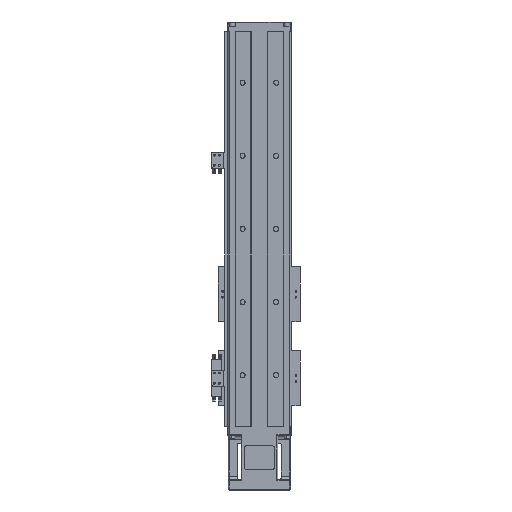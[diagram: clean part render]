
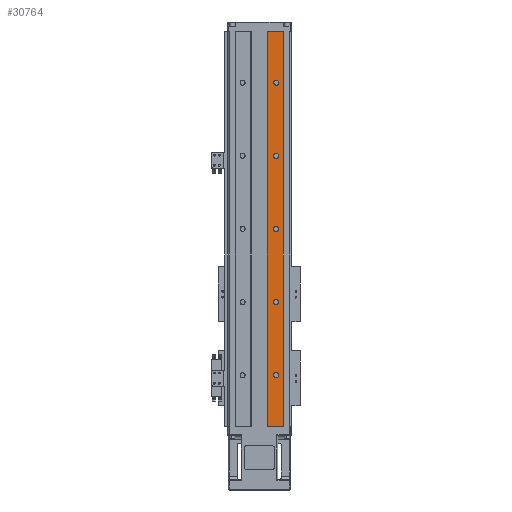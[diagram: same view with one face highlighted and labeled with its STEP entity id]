
A CAD part, front view. The second image highlights one B-rep face of the part: STEP entity #30764.
In plain terms, the highlighted planar face has unit normal (0, -1, 0).
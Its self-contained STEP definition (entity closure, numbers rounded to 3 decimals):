
#294 = DIRECTION ( 'NONE',  ( 0., -1., 0. ) ) ;
#431 = FACE_BOUND ( 'NONE', #3043, .T. ) ;
#534 = ORIENTED_EDGE ( 'NONE', *, *, #13612, .T. ) ;
#2410 = ORIENTED_EDGE ( 'NONE', *, *, #54912, .T. ) ;
#2803 = CARTESIAN_POINT ( 'NONE',  ( 23., 0., 173.5 ) ) ;
#3043 = EDGE_LOOP ( 'NONE', ( #17913, #55303 ) ) ;
#3138 = FACE_BOUND ( 'NONE', #34122, .T. ) ;
#3266 = VERTEX_POINT ( 'NONE', #22883 ) ;
#4598 = CIRCLE ( 'NONE', #35231, 3.5 ) ;
#6415 = EDGE_LOOP ( 'NONE', ( #534, #2410 ) ) ;
#6606 = ORIENTED_EDGE ( 'NONE', *, *, #12861, .F. ) ;
#7250 = CARTESIAN_POINT ( 'NONE',  ( 23., 0., 366.5 ) ) ;
#7892 = ORIENTED_EDGE ( 'NONE', *, *, #41588, .T. ) ;
#8118 = CIRCLE ( 'NONE', #37068, 3.5 ) ;
#8276 = CARTESIAN_POINT ( 'NONE',  ( 32.5, 0., 0. ) ) ;
#9009 = CARTESIAN_POINT ( 'NONE',  ( 43., 0., 540. ) ) ;
#9191 = PLANE ( 'NONE',  #29648 ) ;
#10011 = CARTESIAN_POINT ( 'NONE',  ( 32.5, 0., 540. ) ) ;
#10051 = CARTESIAN_POINT ( 'NONE',  ( 11.5, 0., 540. ) ) ;
#10909 = CARTESIAN_POINT ( 'NONE',  ( 23., 0., 270. ) ) ;
#11283 = DIRECTION ( 'NONE',  ( 0., 0., -1. ) ) ;
#11664 = CARTESIAN_POINT ( 'NONE',  ( 23., 0., 66.5 ) ) ;
#11685 = DIRECTION ( 'NONE',  ( 0., 0., -1. ) ) ;
#12057 = EDGE_CURVE ( 'NONE', #22628, #24950, #47315, .T. ) ;
#12530 = DIRECTION ( 'NONE',  ( 0., 0., -1. ) ) ;
#12861 = EDGE_CURVE ( 'NONE', #25872, #22253, #47925, .T. ) ;
#12998 = CARTESIAN_POINT ( 'NONE',  ( 23., 0., 473.5 ) ) ;
#13421 = DIRECTION ( 'NONE',  ( -1., 0., 0. ) ) ;
#13612 = EDGE_CURVE ( 'NONE', #31402, #13750, #21249, .T. ) ;
#13750 = VERTEX_POINT ( 'NONE', #50052 ) ;
#13972 = FACE_BOUND ( 'NONE', #18313, .T. ) ;
#14283 = LINE ( 'NONE', #26312, #22414 ) ;
#16421 = EDGE_CURVE ( 'NONE', #20586, #19460, #22939, .T. ) ;
#16489 = ORIENTED_EDGE ( 'NONE', *, *, #12057, .T. ) ;
#16514 = CARTESIAN_POINT ( 'NONE',  ( 23., 0., 470. ) ) ;
#16905 = CIRCLE ( 'NONE', #35743, 3.5 ) ;
#17081 = AXIS2_PLACEMENT_3D ( 'NONE', #10909, #33282, #11283 ) ;
#17296 = EDGE_LOOP ( 'NONE', ( #53207, #6606, #47027, #27843 ) ) ;
#17316 = VERTEX_POINT ( 'NONE', #28539 ) ;
#17913 = ORIENTED_EDGE ( 'NONE', *, *, #27282, .T. ) ;
#18122 = VERTEX_POINT ( 'NONE', #2803 ) ;
#18313 = EDGE_LOOP ( 'NONE', ( #7892, #19992 ) ) ;
#19262 = DIRECTION ( 'NONE',  ( 0., 0., -1. ) ) ;
#19460 = VERTEX_POINT ( 'NONE', #10051 ) ;
#19577 = CARTESIAN_POINT ( 'NONE',  ( 23., 0., 73.5 ) ) ;
#19992 = ORIENTED_EDGE ( 'NONE', *, *, #46967, .T. ) ;
#20586 = VERTEX_POINT ( 'NONE', #38820 ) ;
#21249 = CIRCLE ( 'NONE', #23680, 3.5 ) ;
#22253 = VERTEX_POINT ( 'NONE', #8276 ) ;
#22374 = ORIENTED_EDGE ( 'NONE', *, *, #51459, .T. ) ;
#22414 = VECTOR ( 'NONE', #13421, 1000. ) ;
#22628 = VERTEX_POINT ( 'NONE', #11664 ) ;
#22680 = DIRECTION ( 'NONE',  ( 0., 0., -1. ) ) ;
#22883 = CARTESIAN_POINT ( 'NONE',  ( 23., 0., 166.5 ) ) ;
#22939 = LINE ( 'NONE', #26952, #28383 ) ;
#23533 = DIRECTION ( 'NONE',  ( 0., 1., 0. ) ) ;
#23680 = AXIS2_PLACEMENT_3D ( 'NONE', #31401, #48754, #22680 ) ;
#23800 = EDGE_CURVE ( 'NONE', #17316, #50439, #16905, .T. ) ;
#24950 = VERTEX_POINT ( 'NONE', #19577 ) ;
#25771 = DIRECTION ( 'NONE',  ( 0., 1., 0. ) ) ;
#25797 = DIRECTION ( 'NONE',  ( 0., 1., 0. ) ) ;
#25872 = VERTEX_POINT ( 'NONE', #10011 ) ;
#26024 = ORIENTED_EDGE ( 'NONE', *, *, #28983, .T. ) ;
#26312 = CARTESIAN_POINT ( 'NONE',  ( 43., 0., 540. ) ) ;
#26638 = EDGE_CURVE ( 'NONE', #22253, #20586, #40982, .T. ) ;
#26952 = CARTESIAN_POINT ( 'NONE',  ( 11.5, 0., 540. ) ) ;
#27282 = EDGE_CURVE ( 'NONE', #38872, #29298, #36791, .T. ) ;
#27843 = ORIENTED_EDGE ( 'NONE', *, *, #16421, .F. ) ;
#28383 = VECTOR ( 'NONE', #39477, 1000. ) ;
#28539 = CARTESIAN_POINT ( 'NONE',  ( 23., 0., 373.5 ) ) ;
#28983 = EDGE_CURVE ( 'NONE', #50439, #17316, #4598, .T. ) ;
#29298 = VERTEX_POINT ( 'NONE', #12998 ) ;
#29648 = AXIS2_PLACEMENT_3D ( 'NONE', #9009, #294, #44344 ) ;
#29707 = AXIS2_PLACEMENT_3D ( 'NONE', #55940, #43213, #43779 ) ;
#29713 = CARTESIAN_POINT ( 'NONE',  ( 23., 0., 370. ) ) ;
#30083 = DIRECTION ( 'NONE',  ( 0., 1., 0. ) ) ;
#30087 = CARTESIAN_POINT ( 'NONE',  ( 23., 0., 466.5 ) ) ;
#30764 = ADVANCED_FACE ( 'NONE', ( #54073, #431, #48639, #42524, #13972, #3138 ), #9191, .T. ) ;
#31401 = CARTESIAN_POINT ( 'NONE',  ( 23., 0., 270. ) ) ;
#31402 = VERTEX_POINT ( 'NONE', #44159 ) ;
#32689 = AXIS2_PLACEMENT_3D ( 'NONE', #32823, #23533, #50341 ) ;
#32823 = CARTESIAN_POINT ( 'NONE',  ( 23., 0., 170. ) ) ;
#33282 = DIRECTION ( 'NONE',  ( 0., 1., 0. ) ) ;
#34106 = CIRCLE ( 'NONE', #34310, 3.5 ) ;
#34122 = EDGE_LOOP ( 'NONE', ( #16489, #22374 ) ) ;
#34310 = AXIS2_PLACEMENT_3D ( 'NONE', #55202, #54825, #50458 ) ;
#34492 = CARTESIAN_POINT ( 'NONE',  ( 23., 0., 470. ) ) ;
#35231 = AXIS2_PLACEMENT_3D ( 'NONE', #41486, #54796, #19262 ) ;
#35237 = EDGE_CURVE ( 'NONE', #25872, #19460, #14283, .T. ) ;
#35743 = AXIS2_PLACEMENT_3D ( 'NONE', #29713, #30083, #56195 ) ;
#36791 = CIRCLE ( 'NONE', #48677, 3.5 ) ;
#36983 = VECTOR ( 'NONE', #11685, 1000. ) ;
#37068 = AXIS2_PLACEMENT_3D ( 'NONE', #51838, #25797, #47650 ) ;
#37268 = CIRCLE ( 'NONE', #43708, 3.5 ) ;
#37457 = CARTESIAN_POINT ( 'NONE',  ( 32.5, 0., 540. ) ) ;
#37607 = CARTESIAN_POINT ( 'NONE',  ( 43., 0., 0. ) ) ;
#38362 = DIRECTION ( 'NONE',  ( -1., 0., 0. ) ) ;
#38820 = CARTESIAN_POINT ( 'NONE',  ( 11.5, 0., 0. ) ) ;
#38872 = VERTEX_POINT ( 'NONE', #30087 ) ;
#39477 = DIRECTION ( 'NONE',  ( 0., 0., 1. ) ) ;
#40658 = CIRCLE ( 'NONE', #32689, 3.5 ) ;
#40982 = LINE ( 'NONE', #37607, #43738 ) ;
#41486 = CARTESIAN_POINT ( 'NONE',  ( 23., 0., 370. ) ) ;
#41588 = EDGE_CURVE ( 'NONE', #3266, #18122, #40658, .T. ) ;
#41615 = ORIENTED_EDGE ( 'NONE', *, *, #23800, .T. ) ;
#42524 = FACE_BOUND ( 'NONE', #6415, .T. ) ;
#43213 = DIRECTION ( 'NONE',  ( 0., 1., 0. ) ) ;
#43708 = AXIS2_PLACEMENT_3D ( 'NONE', #16514, #55285, #12530 ) ;
#43738 = VECTOR ( 'NONE', #38362, 1000. ) ;
#43779 = DIRECTION ( 'NONE',  ( 0., 0., -1. ) ) ;
#43869 = EDGE_LOOP ( 'NONE', ( #26024, #41615 ) ) ;
#44159 = CARTESIAN_POINT ( 'NONE',  ( 23., 0., 266.5 ) ) ;
#44344 = DIRECTION ( 'NONE',  ( 0., 0., -1. ) ) ;
#46967 = EDGE_CURVE ( 'NONE', #18122, #3266, #8118, .T. ) ;
#47027 = ORIENTED_EDGE ( 'NONE', *, *, #35237, .T. ) ;
#47315 = CIRCLE ( 'NONE', #29707, 3.5 ) ;
#47434 = DIRECTION ( 'NONE',  ( 0., 0., -1. ) ) ;
#47650 = DIRECTION ( 'NONE',  ( 0., 0., -1. ) ) ;
#47925 = LINE ( 'NONE', #37457, #36983 ) ;
#48088 = EDGE_CURVE ( 'NONE', #29298, #38872, #37268, .T. ) ;
#48639 = FACE_BOUND ( 'NONE', #43869, .T. ) ;
#48677 = AXIS2_PLACEMENT_3D ( 'NONE', #34492, #25771, #47434 ) ;
#48754 = DIRECTION ( 'NONE',  ( 0., 1., 0. ) ) ;
#50052 = CARTESIAN_POINT ( 'NONE',  ( 23., 0., 273.5 ) ) ;
#50341 = DIRECTION ( 'NONE',  ( 0., 0., -1. ) ) ;
#50439 = VERTEX_POINT ( 'NONE', #7250 ) ;
#50458 = DIRECTION ( 'NONE',  ( 0., 0., -1. ) ) ;
#51459 = EDGE_CURVE ( 'NONE', #24950, #22628, #34106, .T. ) ;
#51838 = CARTESIAN_POINT ( 'NONE',  ( 23., 0., 170. ) ) ;
#52554 = CIRCLE ( 'NONE', #17081, 3.5 ) ;
#53207 = ORIENTED_EDGE ( 'NONE', *, *, #26638, .F. ) ;
#54073 = FACE_OUTER_BOUND ( 'NONE', #17296, .T. ) ;
#54796 = DIRECTION ( 'NONE',  ( 0., 1., 0. ) ) ;
#54825 = DIRECTION ( 'NONE',  ( 0., 1., 0. ) ) ;
#54912 = EDGE_CURVE ( 'NONE', #13750, #31402, #52554, .T. ) ;
#55202 = CARTESIAN_POINT ( 'NONE',  ( 23., 0., 70. ) ) ;
#55285 = DIRECTION ( 'NONE',  ( 0., 1., 0. ) ) ;
#55303 = ORIENTED_EDGE ( 'NONE', *, *, #48088, .T. ) ;
#55940 = CARTESIAN_POINT ( 'NONE',  ( 23., 0., 70. ) ) ;
#56195 = DIRECTION ( 'NONE',  ( 0., 0., -1. ) ) ;
